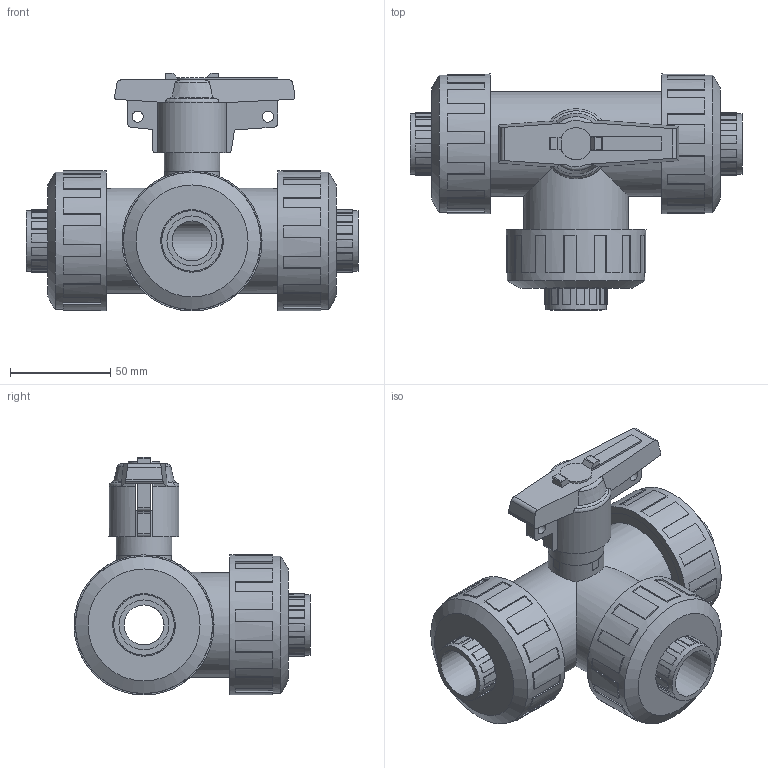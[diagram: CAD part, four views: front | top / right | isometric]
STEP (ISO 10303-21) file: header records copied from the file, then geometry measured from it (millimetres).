
FILE_DESCRIPTION((''),'2;1');
FILE_NAME('M:\3D-Files nach Lieferanten\Praher\PV11003A\PV11003A025.stp','2022-02-17T13:30:55',('RL'),(''),'Autodesk Inventor 2012','Autodesk Inventor 2012','');
FILE_SCHEMA(('AUTOMOTIVE_DESIGN { 1 0 10303 214 1 1 1 1 }'));
Length unit declared in the file: millimetre
Products named in the file (1): PV11003A025
Bounding box: 166 x 118 x 118.93 mm (x, y, z)
Volume: 548954.6 mm3; surface area: 123766.3 mm2
Topology: 1 solids, 1 shells, 522 faces, 1482 edges, 982 vertices
Faces by surface type: plane 441, cylinder 58, cone 15, torus 8
Full cylindrical faces by diameter (mm): 5.5 x2, 20 x2, 25 x3, 27.98 x1, 28 x1, 30.25 x3, 31.23 x3, 31.25 x3, 52.48 x3, 52.5 x5, 62.98 x3, 63 x3, 68.6 x3, 70 x3
Entity records: 17109 total; most frequent: CARTESIAN_POINT 3156, DIRECTION 2928, ORIENTED_EDGE 2872, EDGE_CURVE 1436, AXIS2_PLACEMENT_3D 1015, VERTEX_POINT 979, VECTOR 898, LINE 898
